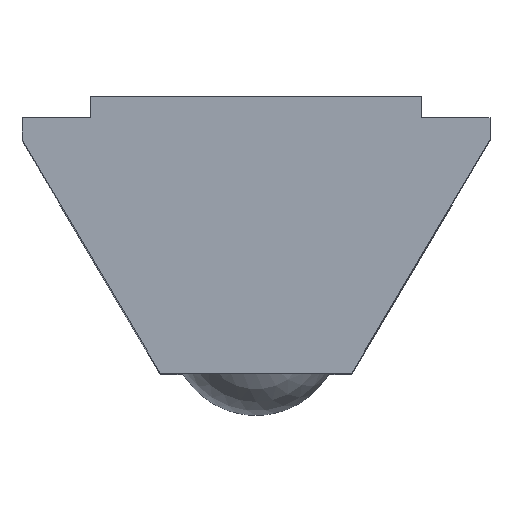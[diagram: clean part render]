
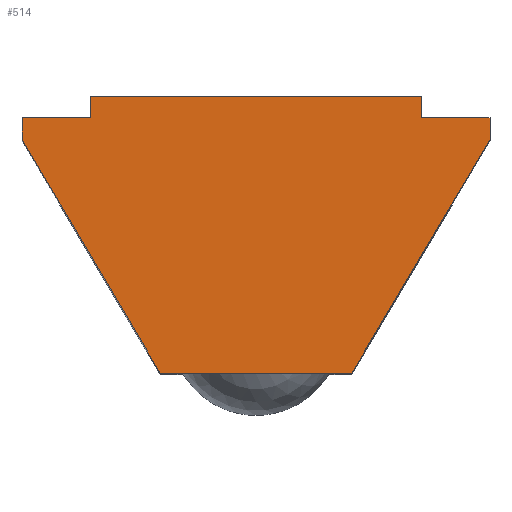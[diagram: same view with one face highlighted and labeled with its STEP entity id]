
A CAD part, top view. The second image highlights one B-rep face of the part: STEP entity #514.
In plain terms, the highlighted planar face has unit normal (0, 0, 1).
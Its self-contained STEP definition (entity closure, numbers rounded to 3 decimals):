
#143=CARTESIAN_POINT('',(-2.25,3.902,22.0));
#144=VERTEX_POINT('',#143);
#151=CARTESIAN_POINT('',(-5.5,9.402,22.0));
#152=VERTEX_POINT('',#151);
#153=CARTESIAN_POINT('',(-2.25,3.902,22.0));
#154=DIRECTION('',(-0.509,0.861,0.0));
#155=VECTOR('',#154,6.388);
#156=LINE('',#153,#155);
#157=EDGE_CURVE('',#144,#152,#156,.T.);
#190=CARTESIAN_POINT('',(2.25,3.902,22.0));
#191=VERTEX_POINT('',#190);
#198=CARTESIAN_POINT('',(2.25,3.902,22.0));
#199=DIRECTION('',(-1.0,0.0,0.0));
#200=VECTOR('',#199,4.5);
#201=LINE('',#198,#200);
#202=EDGE_CURVE('',#191,#144,#201,.T.);
#218=CARTESIAN_POINT('',(3.9,9.902,22.0));
#219=VERTEX_POINT('',#218);
#226=CARTESIAN_POINT('',(5.5,9.902,22.0));
#227=VERTEX_POINT('',#226);
#228=CARTESIAN_POINT('',(3.9,9.902,22.0));
#229=DIRECTION('',(1.0,0.0,0.0));
#230=VECTOR('',#229,1.6);
#231=LINE('',#228,#230);
#232=EDGE_CURVE('',#219,#227,#231,.T.);
#258=CARTESIAN_POINT('',(-3.9,9.902,22.0));
#259=VERTEX_POINT('',#258);
#274=CARTESIAN_POINT('',(-5.5,9.902,22.0));
#275=VERTEX_POINT('',#274);
#282=CARTESIAN_POINT('',(-5.5,9.902,22.0));
#283=DIRECTION('',(1.0,0.0,0.0));
#284=VECTOR('',#283,1.6);
#285=LINE('',#282,#284);
#286=EDGE_CURVE('',#275,#259,#285,.T.);
#296=CARTESIAN_POINT('',(5.5,9.402,22.0));
#297=VERTEX_POINT('',#296);
#298=CARTESIAN_POINT('',(5.5,9.902,22.0));
#299=DIRECTION('',(0.0,-1.0,0.0));
#300=VECTOR('',#299,0.5);
#301=LINE('',#298,#300);
#302=EDGE_CURVE('',#227,#297,#301,.T.);
#343=CARTESIAN_POINT('',(5.5,9.402,22.0));
#344=DIRECTION('',(-0.509,-0.861,0.0));
#345=VECTOR('',#344,6.388);
#346=LINE('',#343,#345);
#347=EDGE_CURVE('',#297,#191,#346,.T.);
#375=CARTESIAN_POINT('',(-5.5,9.402,22.0));
#376=DIRECTION('',(0.0,1.0,0.0));
#377=VECTOR('',#376,0.5);
#378=LINE('',#375,#377);
#379=EDGE_CURVE('',#152,#275,#378,.T.);
#397=CARTESIAN_POINT('',(-3.9,10.402,22.0));
#398=VERTEX_POINT('',#397);
#399=CARTESIAN_POINT('',(-3.9,9.902,22.0));
#400=DIRECTION('',(0.0,1.0,0.0));
#401=VECTOR('',#400,0.5);
#402=LINE('',#399,#401);
#403=EDGE_CURVE('',#259,#398,#402,.T.);
#428=CARTESIAN_POINT('',(3.9,10.402,22.0));
#429=VERTEX_POINT('',#428);
#430=CARTESIAN_POINT('',(-3.9,10.402,22.0));
#431=DIRECTION('',(1.0,0.0,0.0));
#432=VECTOR('',#431,7.8);
#433=LINE('',#430,#432);
#434=EDGE_CURVE('',#398,#429,#433,.T.);
#462=CARTESIAN_POINT('',(3.9,10.402,22.0));
#463=DIRECTION('',(0.0,-1.0,0.0));
#464=VECTOR('',#463,0.5);
#465=LINE('',#462,#464);
#466=EDGE_CURVE('',#429,#219,#465,.T.);
#497=CARTESIAN_POINT('',(0.0,10.152,22.0));
#498=DIRECTION('',(0.0,0.0,1.0));
#499=DIRECTION('',(1.0,0.0,0.0));
#500=AXIS2_PLACEMENT_3D('',#497,#498,#499);
#501=PLANE('',#500);
#502=ORIENTED_EDGE('',*,*,#403,.F.);
#503=ORIENTED_EDGE('',*,*,#286,.F.);
#504=ORIENTED_EDGE('',*,*,#379,.F.);
#505=ORIENTED_EDGE('',*,*,#157,.F.);
#506=ORIENTED_EDGE('',*,*,#202,.F.);
#507=ORIENTED_EDGE('',*,*,#347,.F.);
#508=ORIENTED_EDGE('',*,*,#302,.F.);
#509=ORIENTED_EDGE('',*,*,#232,.F.);
#510=ORIENTED_EDGE('',*,*,#466,.F.);
#511=ORIENTED_EDGE('',*,*,#434,.F.);
#512=EDGE_LOOP('',(#502,#503,#504,#505,#506,#507,#508,#509,#510,#511));
#513=FACE_OUTER_BOUND('',#512,.T.);
#514=ADVANCED_FACE('',(#513),#501,.T.);
